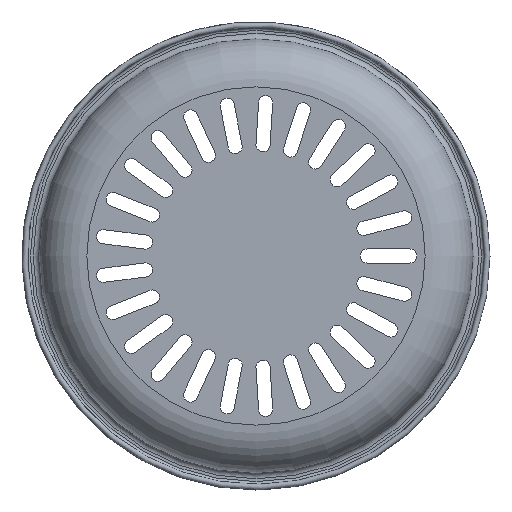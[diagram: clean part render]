
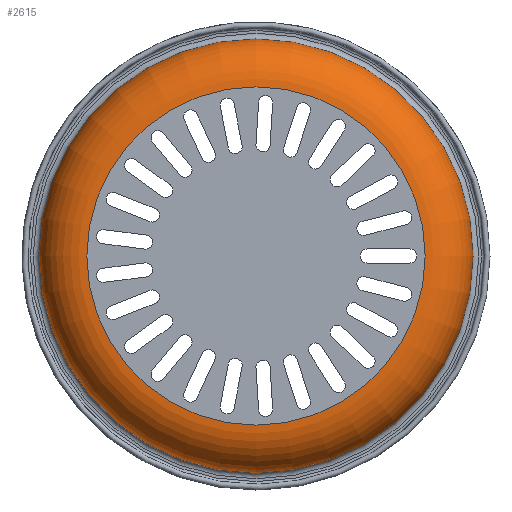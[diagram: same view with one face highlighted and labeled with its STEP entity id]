
A CAD part, front view. The second image highlights one B-rep face of the part: STEP entity #2615.
In plain terms, the highlighted toroidal (fillet/blend) face has major radius 60 mm and minor radius 17 mm.
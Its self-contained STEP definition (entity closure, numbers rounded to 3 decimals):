
#106=TOROIDAL_SURFACE('',#2864,60.,17.);
#223=CIRCLE('',#2865,77.);
#224=CIRCLE('',#2866,17.);
#225=CIRCLE('',#2867,60.);
#226=CIRCLE('',#2868,77.);
#412=FACE_OUTER_BOUND('',#565,.T.);
#565=EDGE_LOOP('',(#2170,#2171,#2172,#2173,#2174));
#1233=VERTEX_POINT('',#7739);
#1234=VERTEX_POINT('',#7740);
#1235=VERTEX_POINT('',#7742);
#1582=EDGE_CURVE('',#1233,#1234,#223,.T.);
#1583=EDGE_CURVE('',#1233,#1235,#224,.T.);
#1584=EDGE_CURVE('',#1235,#1235,#225,.T.);
#1585=EDGE_CURVE('',#1234,#1233,#226,.T.);
#2170=ORIENTED_EDGE('',*,*,#1582,.F.);
#2171=ORIENTED_EDGE('',*,*,#1583,.T.);
#2172=ORIENTED_EDGE('',*,*,#1584,.T.);
#2173=ORIENTED_EDGE('',*,*,#1583,.F.);
#2174=ORIENTED_EDGE('',*,*,#1585,.F.);
#2615=ADVANCED_FACE('',(#412),#106,.T.);
#2864=AXIS2_PLACEMENT_3D('',#7738,#3528,#3529);
#2865=AXIS2_PLACEMENT_3D('',#7741,#3530,#3531);
#2866=AXIS2_PLACEMENT_3D('',#7743,#3532,#3533);
#2867=AXIS2_PLACEMENT_3D('',#7744,#3534,#3535);
#2868=AXIS2_PLACEMENT_3D('',#7745,#3536,#3537);
#3528=DIRECTION('center_axis',(0.,1.,0.));
#3529=DIRECTION('ref_axis',(0.,0.,1.));
#3530=DIRECTION('center_axis',(0.,1.,0.));
#3531=DIRECTION('ref_axis',(1.,0.,0.));
#3532=DIRECTION('center_axis',(-1.,0.,0.));
#3533=DIRECTION('ref_axis',(0.,0.,-1.));
#3534=DIRECTION('center_axis',(0.,1.,0.));
#3535=DIRECTION('ref_axis',(1.,0.,0.));
#3536=DIRECTION('center_axis',(0.,1.,0.));
#3537=DIRECTION('ref_axis',(1.,0.,0.));
#7738=CARTESIAN_POINT('Origin',(0.,15.,0.));
#7739=CARTESIAN_POINT('',(0.,15.,-77.));
#7740=CARTESIAN_POINT('',(77.,15.,0.));
#7741=CARTESIAN_POINT('Origin',(0.,15.,0.));
#7742=CARTESIAN_POINT('',(0.,-2.,-60.));
#7743=CARTESIAN_POINT('Origin',(0.,15.,-60.));
#7744=CARTESIAN_POINT('Origin',(0.,-2.,
0.));
#7745=CARTESIAN_POINT('Origin',(0.,15.,0.));
